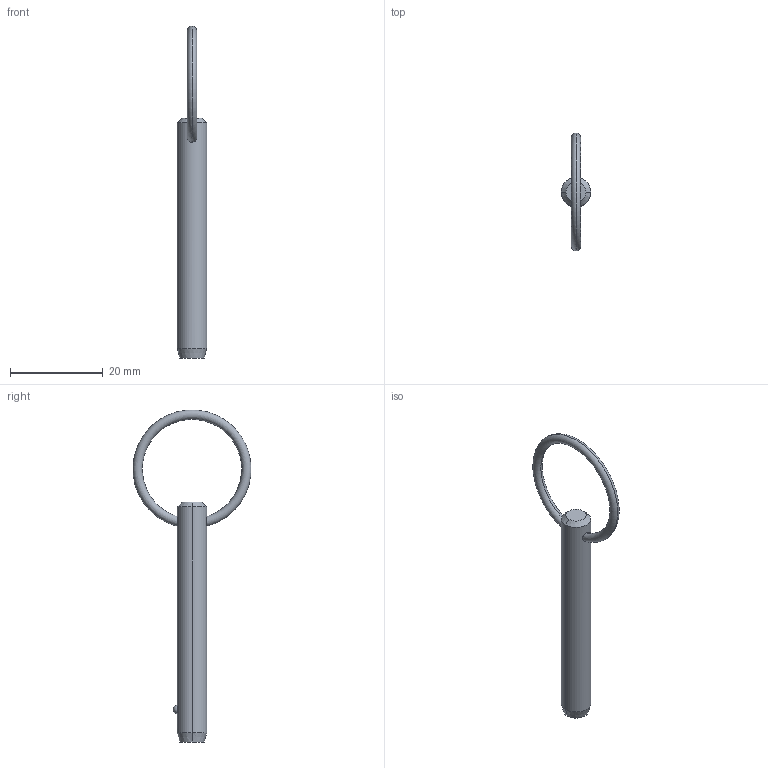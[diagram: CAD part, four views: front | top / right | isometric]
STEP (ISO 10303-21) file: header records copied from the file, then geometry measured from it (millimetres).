
FILE_DESCRIPTION (( 'STEP AP203' ), '1' );
FILE_NAME ('P1250.025-150.step', '2019-07-29T19:40:54', ( '' ), ( '' ), 'SwSTEP 2.0', 'SolidWorks 2017', '' );
FILE_SCHEMA (( 'CONFIG_CONTROL_DESIGN' ));
Length unit declared in the file: millimetre
Products named in the file (1): P1250.025-150
Bounding box: 6.35 x 25.38 x 71.42 mm (x, y, z)
Volume: 1827.8 mm3; surface area: 1486.8 mm2
Topology: 1 solids, 1 shells, 12 faces, 28 edges, 17 vertices
Faces by surface type: cone 4, torus 2, sphere 2, cylinder 2, plane 2
Entity records: 481 total; most frequent: CARTESIAN_POINT 148, DIRECTION 56, ORIENTED_EDGE 48, AXIS2_PLACEMENT_3D 25, EDGE_CURVE 24, EDGE_LOOP 15, VERTEX_POINT 15, ADVANCED_FACE 12
